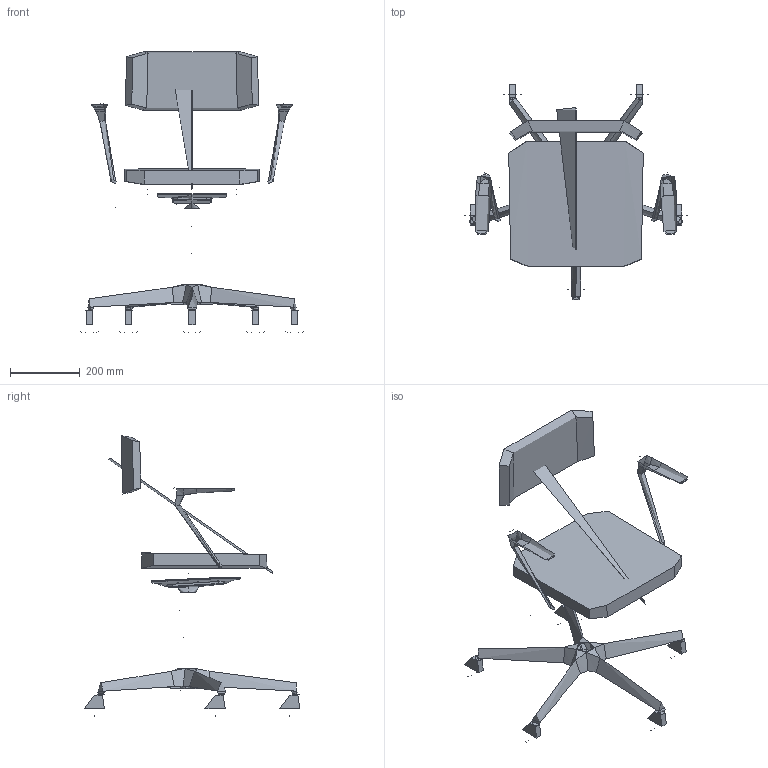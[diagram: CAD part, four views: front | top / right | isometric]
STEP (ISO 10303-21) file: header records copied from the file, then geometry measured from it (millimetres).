
FILE_DESCRIPTION(/* description */ (''),/* implementation_level */ '2;1');
FILE_NAME(/* name */ 'ZOE 220-BL,BR-ZOE',/* time_stamp */ '2023-05-16T22:25:34+02:00',/* author */ (''),/* organization */ (''),/* preprocessor_version */ 'ST-DEVELOPER v16.5',/* originating_system */ 'Rhino 7.29',/* authorisation */ '');
FILE_SCHEMA (('CONFIG_CONTROL_DESIGN'));
Length unit declared in the file: millimetre
Products named in the file (1): Document
Bounding box: 639.65 x 618.72 x 805.24 mm (x, y, z)
Volume: 14436136.5 mm3; surface area: 1638320.5 mm2
Topology: 14 solids, 47 shells, 357 faces, 808 edges, 497 vertices
Faces by surface type: bspline 167, plane 138, cylinder 52
Full cylindrical faces by diameter (mm): 8 x1, 11 x5, 22 x2, 28 x1, 46 x1, 50 x1, 60 x10
Entity records: 30047 total; most frequent: CARTESIAN_POINT 24715, ORIENTED_EDGE 1493, EDGE_CURVE 810, B_SPLINE_CURVE_WITH_KNOTS 546, VERTEX_POINT 500, EDGE_LOOP 362, ADVANCED_FACE 357, FACE_OUTER_BOUND 357
